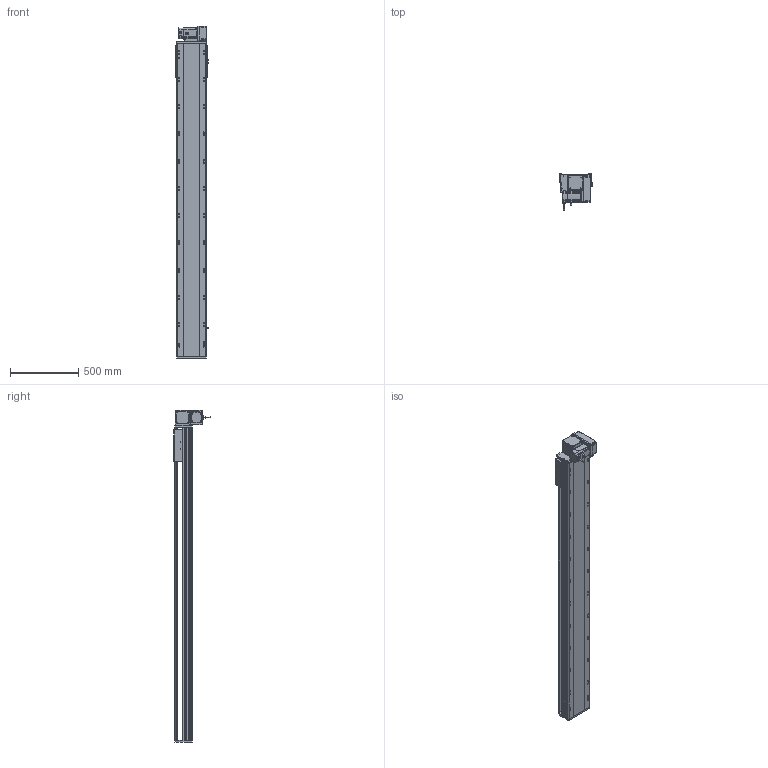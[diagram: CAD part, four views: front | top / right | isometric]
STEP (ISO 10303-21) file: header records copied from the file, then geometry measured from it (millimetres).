
FILE_DESCRIPTION (( 'STEP AP214' ), '1' );
FILE_NAME ('RTB22S-XX-1950-RM-M75-C4.STEP', '2025-12-12T07:53:29', ( '' ), ( '' ), 'SwSTEP 2.0', 'SolidWorks 2018', '' );
FILE_SCHEMA (( 'AUTOMOTIVE_DESIGN' ));
Length unit declared in the file: millimetre
Products named in the file (14): RTB22S-GY-001耜裔^RTB22S-XX-XX-RM-M75-C4; RTB22S-XX-1950-RM-M75-C4; RTH22-GY-013外置感应片^RTB22S-XX-XX-RM-M75-C4; OMRON EE-SX672 传感器^RTB22S-XX-XX-RM-M75-C4; RTB22S-L-004賑釱^RTB22S-XX-XX-RM-M75-C4; 750W萇儂^RTB22S-XX-XX-RM-M75-C4; RTB22S-L-011菁釱^RTB22S-XX-XX-RM-M75-C4; RTB22S-GY-017P^RTB22S-RM-々湍釱蚾饜_RTB22S-XX-XX-RM-M75-C4; RTB22S-GY-007奻裔^RTB22S-XX-XX-RM-M75-C4; RTB22S-GY-018P^RTB22S-RM-々湍釱蚾饜_RTB22S-XX-XX-RM-M75-C4; RTB22S-RM-々湍釱蚾饜^RTB22S-XX-XX-RM-M75-C4; RTB22S-GY-008-M75--萇儂啣^RTB22S-RM-々湍釱蚾饜_RTB22S-XX-XX-RM-M75-C4; RTB22S-GY-005P^RTB22S-RM-々湍釱蚾饜_RTB22S-XX-XX-RM-M75-C4; RTB22S-GY-014--々湍釱^RTB22S-RM-々湍釱蚾饜_RTB22S-XX-XX-RM-M75-C4
Assembly tree (16 placements, depth 3):
  RTB22S-XX-1950-RM-M75-C4
    RTB22S-L-011菁釱^RTB22S-XX-XX-RM-M75-C4
    RTB22S-GY-001耜裔^RTB22S-XX-XX-RM-M75-C4
    750W萇儂^RTB22S-XX-XX-RM-M75-C4
    RTB22S-GY-007奻裔^RTB22S-XX-XX-RM-M75-C4
    RTB22S-L-004賑釱^RTB22S-XX-XX-RM-M75-C4
    RTH22-GY-013外置感应片^RTB22S-XX-XX-RM-M75-C4
    OMRON EE-SX672 传感器^RTB22S-XX-XX-RM-M75-C4  x3
    RTB22S-RM-々湍釱蚾饜^RTB22S-XX-XX-RM-M75-C4
      RTB22S-GY-014--々湍釱^RTB22S-RM-々湍釱蚾饜_RTB22S-XX-XX-RM-M75-C4
      RTB22S-GY-017P^RTB22S-RM-々湍釱蚾饜_RTB22S-XX-XX-RM-M75-C4  x2
      RTB22S-GY-005P^RTB22S-RM-々湍釱蚾饜_RTB22S-XX-XX-RM-M75-C4
      RTB22S-GY-008-M75--萇儂啣^RTB22S-RM-々湍釱蚾饜_RTB22S-XX-XX-RM-M75-C4
      RTB22S-GY-018P^RTB22S-RM-々湍釱蚾饜_RTB22S-XX-XX-RM-M75-C4
Bounding box: 238.5 x 264.7 x 2437.5 mm (x, y, z)
Volume: 32357854.4 mm3; surface area: 3322706.8 mm2
Topology: 15 solids, 15 shells, 2055 faces, 5586 edges, 3572 vertices
Faces by surface type: plane 923, cylinder 670, bspline 296, cone 154, sphere 8, torus 4
Entity records: 55400 total; most frequent: CARTESIAN_POINT 15764, ORIENTED_EDGE 7928, DIRECTION 7698, EDGE_CURVE 3964, AXIS2_PLACEMENT_3D 2742, VERTEX_POINT 2576, LINE 2214, VECTOR 2214
